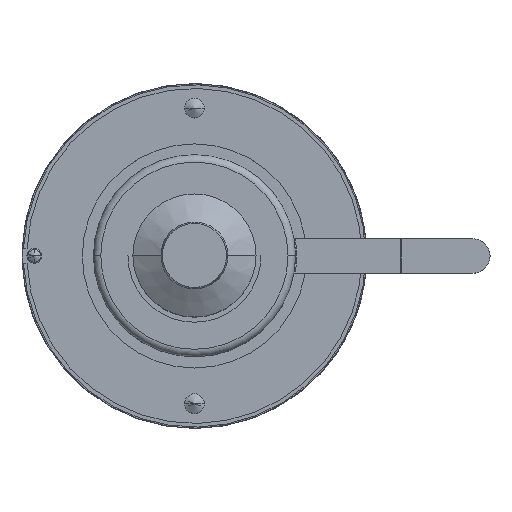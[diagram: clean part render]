
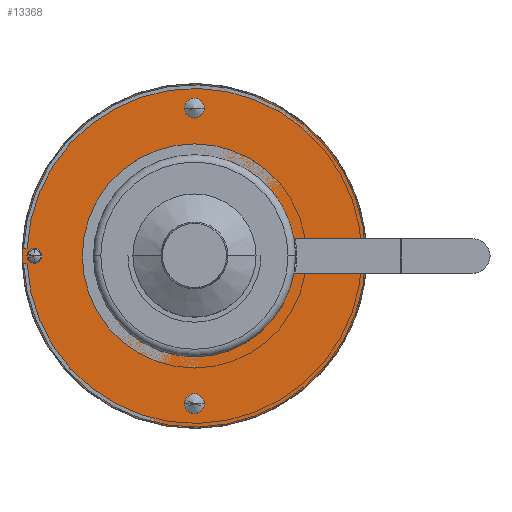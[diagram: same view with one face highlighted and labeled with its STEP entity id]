
A CAD part, top view. The second image highlights one B-rep face of the part: STEP entity #13368.
In plain terms, the highlighted planar face has unit normal (0, 0, 1).
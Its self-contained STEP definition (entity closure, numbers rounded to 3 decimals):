
#3327 = CARTESIAN_POINT ( 'NONE',  ( 40.398, 7., 32. ) ) ;
#6688 = CIRCLE ( 'NONE', #12069, 4. ) ;
#6708 = CIRCLE ( 'NONE', #12072, 4. ) ;
#6721 = CIRCLE ( 'NONE', #12075, 4. ) ;
#6724 = CIRCLE ( 'NONE', #12076, 3. ) ;
#6726 = CIRCLE ( 'NONE', #12077, 4. ) ;
#6752 = CIRCLE ( 'NONE', #12081, 70. ) ;
#6868 = LINE ( 'NONE', #10451, #6870 ) ;
#6870 = VECTOR ( 'NONE', #10452, 1000. ) ;
#6885 = LINE ( 'NONE', #10470, #6887 ) ;
#6887 = VECTOR ( 'NONE', #10471, 1000. ) ;
#6888 = CIRCLE ( 'NONE', #12094, 41. ) ;
#7813 = ORIENTED_EDGE ( 'NONE', *, *, #16929, .T. ) ;
#7814 = ORIENTED_EDGE ( 'NONE', *, *, #16977, .F. ) ;
#7815 = ORIENTED_EDGE ( 'NONE', *, *, #16999, .F. ) ;
#7816 = ORIENTED_EDGE ( 'NONE', *, *, #16998, .F. ) ;
#7817 = ORIENTED_EDGE ( 'NONE', *, *, #16991, .F. ) ;
#10114 = CARTESIAN_POINT ( 'NONE',  ( 0., 0., 32. ) ) ;
#10115 = DIRECTION ( 'NONE',  ( 0., 0., 1. ) ) ;
#10116 = DIRECTION ( 'NONE',  ( 0., 1., 0. ) ) ;
#10134 = CARTESIAN_POINT ( 'NONE',  ( 0., 0., 32. ) ) ;
#10135 = DIRECTION ( 'NONE',  ( 0., 0., -1. ) ) ;
#10136 = DIRECTION ( 'NONE',  ( -1., 0., 0. ) ) ;
#10260 = CARTESIAN_POINT ( 'NONE',  ( -65., 0., 32. ) ) ;
#10261 = DIRECTION ( 'NONE',  ( 0., 0., 1. ) ) ;
#10262 = DIRECTION ( 'NONE',  ( 1., 0., 0. ) ) ;
#10265 = CARTESIAN_POINT ( 'NONE',  ( 0., 0., 32. ) ) ;
#10266 = DIRECTION ( 'NONE',  ( 0., 0., 1. ) ) ;
#10267 = DIRECTION ( 'NONE',  ( 0., 1., 0. ) ) ;
#10275 = CARTESIAN_POINT ( 'NONE',  ( 0., 60., 32. ) ) ;
#10276 = DIRECTION ( 'NONE',  ( 0., 0., -1. ) ) ;
#10277 = DIRECTION ( 'NONE',  ( -1., 0., 0. ) ) ;
#10294 = CARTESIAN_POINT ( 'NONE',  ( 0., -60., 32. ) ) ;
#10295 = DIRECTION ( 'NONE',  ( 0., 0., 1. ) ) ;
#10296 = DIRECTION ( 'NONE',  ( -1., 0., 0. ) ) ;
#10311 = CARTESIAN_POINT ( 'NONE',  ( 0., -60., 32. ) ) ;
#10312 = DIRECTION ( 'NONE',  ( 0., 0., 1. ) ) ;
#10313 = DIRECTION ( 'NONE',  ( -1., 0., 0. ) ) ;
#10314 = CARTESIAN_POINT ( 'NONE',  ( -65., 0., 32. ) ) ;
#10315 = DIRECTION ( 'NONE',  ( 0., 0., 1. ) ) ;
#10316 = DIRECTION ( 'NONE',  ( 1., 0., 0. ) ) ;
#10317 = CARTESIAN_POINT ( 'NONE',  ( 0., 60., 32. ) ) ;
#10318 = DIRECTION ( 'NONE',  ( 0., 0., -1. ) ) ;
#10319 = DIRECTION ( 'NONE',  ( -1., 0., 0. ) ) ;
#10343 = CARTESIAN_POINT ( 'NONE',  ( 0., 0., 32. ) ) ;
#10344 = DIRECTION ( 'NONE',  ( 0., 0., 1. ) ) ;
#10345 = DIRECTION ( 'NONE',  ( 0., 1., 0. ) ) ;
#10451 = CARTESIAN_POINT ( 'NONE',  ( 0., -7., 32. ) ) ;
#10452 = DIRECTION ( 'NONE',  ( 1., 0., 0. ) ) ;
#10470 = CARTESIAN_POINT ( 'NONE',  ( 0., 7., 32. ) ) ;
#10471 = DIRECTION ( 'NONE',  ( -1., 0., 0. ) ) ;
#10472 = CARTESIAN_POINT ( 'NONE',  ( 0., 0., 32. ) ) ;
#10473 = DIRECTION ( 'NONE',  ( 0., 0., -1. ) ) ;
#10474 = DIRECTION ( 'NONE',  ( -1., 0., 0. ) ) ;
#10609 = FACE_BOUND ( 'NONE', #14531, .T. ) ;
#10610 = FACE_OUTER_BOUND ( 'NONE', #14609, .T. ) ;
#10611 = FACE_BOUND ( 'NONE', #14682, .T. ) ;
#10612 = FACE_BOUND ( 'NONE', #14685, .T. ) ;
#11634 = AXIS2_PLACEMENT_3D ( 'NONE', #12326, #12319, #12323 ) ;
#12036 = AXIS2_PLACEMENT_3D ( 'NONE', #10114, #10115, #10116 ) ;
#12040 = AXIS2_PLACEMENT_3D ( 'NONE', #10134, #10135, #10136 ) ;
#12066 = AXIS2_PLACEMENT_3D ( 'NONE', #10260, #10261, #10262 ) ;
#12067 = AXIS2_PLACEMENT_3D ( 'NONE', #10265, #10266, #10267 ) ;
#12069 = AXIS2_PLACEMENT_3D ( 'NONE', #10275, #10276, #10277 ) ;
#12072 = AXIS2_PLACEMENT_3D ( 'NONE', #10294, #10295, #10296 ) ;
#12075 = AXIS2_PLACEMENT_3D ( 'NONE', #10311, #10312, #10313 ) ;
#12076 = AXIS2_PLACEMENT_3D ( 'NONE', #10314, #10315, #10316 ) ;
#12077 = AXIS2_PLACEMENT_3D ( 'NONE', #10317, #10318, #10319 ) ;
#12081 = AXIS2_PLACEMENT_3D ( 'NONE', #10343, #10344, #10345 ) ;
#12094 = AXIS2_PLACEMENT_3D ( 'NONE', #10472, #10473, #10474 ) ;
#12319 = DIRECTION ( 'NONE',  ( 0., 0., 1. ) ) ;
#12323 = DIRECTION ( 'NONE',  ( 0., 1., 0. ) ) ;
#12325 = PLANE ( 'NONE',  #11634 ) ;
#12326 = CARTESIAN_POINT ( 'NONE',  ( 0., 25., 32. ) ) ;
#13368 = ADVANCED_FACE ( 'NONE', ( #10609, #10610, #10611, #10612 ), #12325, .T. ) ;
#13905 = CIRCLE ( 'NONE', #12036, 70. ) ;
#13916 = CIRCLE ( 'NONE', #12040, 41. ) ;
#13985 = CIRCLE ( 'NONE', #12066, 3. ) ;
#13988 = CIRCLE ( 'NONE', #12067, 70. ) ;
#14531 = EDGE_LOOP ( 'NONE', ( #15890, #15891 ) ) ;
#14609 = EDGE_LOOP ( 'NONE', ( #15892, #15893, #15894, #15895, #15896, #15897, #7813 ) ) ;
#14682 = EDGE_LOOP ( 'NONE', ( #7814, #7815 ) ) ;
#14685 = EDGE_LOOP ( 'NONE', ( #7816, #7817 ) ) ;
#14792 = CARTESIAN_POINT ( 'NONE',  ( 69.649, -7., 32. ) ) ;
#14841 = CARTESIAN_POINT ( 'NONE',  ( 4., 60., 32. ) ) ;
#14857 = CARTESIAN_POINT ( 'NONE',  ( -41., 0., 32. ) ) ;
#14892 = CARTESIAN_POINT ( 'NONE',  ( -4., -60., 32. ) ) ;
#15088 = CARTESIAN_POINT ( 'NONE',  ( 4., -60., 32. ) ) ;
#15122 = CARTESIAN_POINT ( 'NONE',  ( -68., 0., 32. ) ) ;
#15186 = CARTESIAN_POINT ( 'NONE',  ( 69.649, 7., 32. ) ) ;
#15214 = CARTESIAN_POINT ( 'NONE',  ( -62., 0., 32. ) ) ;
#15227 = CARTESIAN_POINT ( 'NONE',  ( 0., -70., 32. ) ) ;
#15269 = CARTESIAN_POINT ( 'NONE',  ( -4., 60., 32. ) ) ;
#15334 = CARTESIAN_POINT ( 'NONE',  ( 0., 70., 32. ) ) ;
#15360 = CARTESIAN_POINT ( 'NONE',  ( 40.398, -7., 32. ) ) ;
#15890 = ORIENTED_EDGE ( 'NONE', *, *, #16983, .T. ) ;
#15891 = ORIENTED_EDGE ( 'NONE', *, *, #17000, .T. ) ;
#15892 = ORIENTED_EDGE ( 'NONE', *, *, #17066, .F. ) ;
#15893 = ORIENTED_EDGE ( 'NONE', *, *, #16979, .T. ) ;
#15894 = ORIENTED_EDGE ( 'NONE', *, *, #16921, .T. ) ;
#15895 = ORIENTED_EDGE ( 'NONE', *, *, #17011, .T. ) ;
#15896 = ORIENTED_EDGE ( 'NONE', *, *, #17059, .F. ) ;
#15897 = ORIENTED_EDGE ( 'NONE', *, *, #17067, .T. ) ;
#16921 = EDGE_CURVE ( 'NONE', #19184, #19076, #13905, .T. ) ;
#16929 = EDGE_CURVE ( 'NONE', #18676, #18597, #13916, .T. ) ;
#16977 = EDGE_CURVE ( 'NONE', #19063, #18968, #13985, .T. ) ;
#16979 = EDGE_CURVE ( 'NONE', #19035, #19184, #13988, .T. ) ;
#16983 = EDGE_CURVE ( 'NONE', #19119, #18660, #6688, .T. ) ;
#16991 = EDGE_CURVE ( 'NONE', #18930, #18711, #6708, .T. ) ;
#16998 = EDGE_CURVE ( 'NONE', #18711, #18930, #6721, .T. ) ;
#16999 = EDGE_CURVE ( 'NONE', #18968, #19063, #6724, .T. ) ;
#17000 = EDGE_CURVE ( 'NONE', #18660, #19119, #6726, .T. ) ;
#17011 = EDGE_CURVE ( 'NONE', #19076, #18610, #6752, .T. ) ;
#17059 = EDGE_CURVE ( 'NONE', #19211, #18610, #6868, .T. ) ;
#17066 = EDGE_CURVE ( 'NONE', #19035, #18597, #6885, .T. ) ;
#17067 = EDGE_CURVE ( 'NONE', #19211, #18676, #6888, .T. ) ;
#18597 = VERTEX_POINT ( 'NONE', #3327 ) ;
#18610 = VERTEX_POINT ( 'NONE', #14792 ) ;
#18660 = VERTEX_POINT ( 'NONE', #14841 ) ;
#18676 = VERTEX_POINT ( 'NONE', #14857 ) ;
#18711 = VERTEX_POINT ( 'NONE', #14892 ) ;
#18930 = VERTEX_POINT ( 'NONE', #15088 ) ;
#18968 = VERTEX_POINT ( 'NONE', #15122 ) ;
#19035 = VERTEX_POINT ( 'NONE', #15186 ) ;
#19063 = VERTEX_POINT ( 'NONE', #15214 ) ;
#19076 = VERTEX_POINT ( 'NONE', #15227 ) ;
#19119 = VERTEX_POINT ( 'NONE', #15269 ) ;
#19184 = VERTEX_POINT ( 'NONE', #15334 ) ;
#19211 = VERTEX_POINT ( 'NONE', #15360 ) ;
